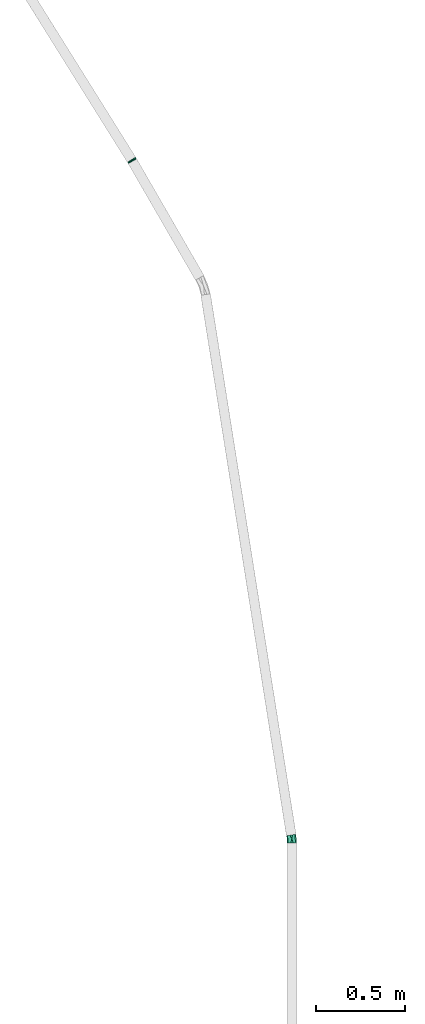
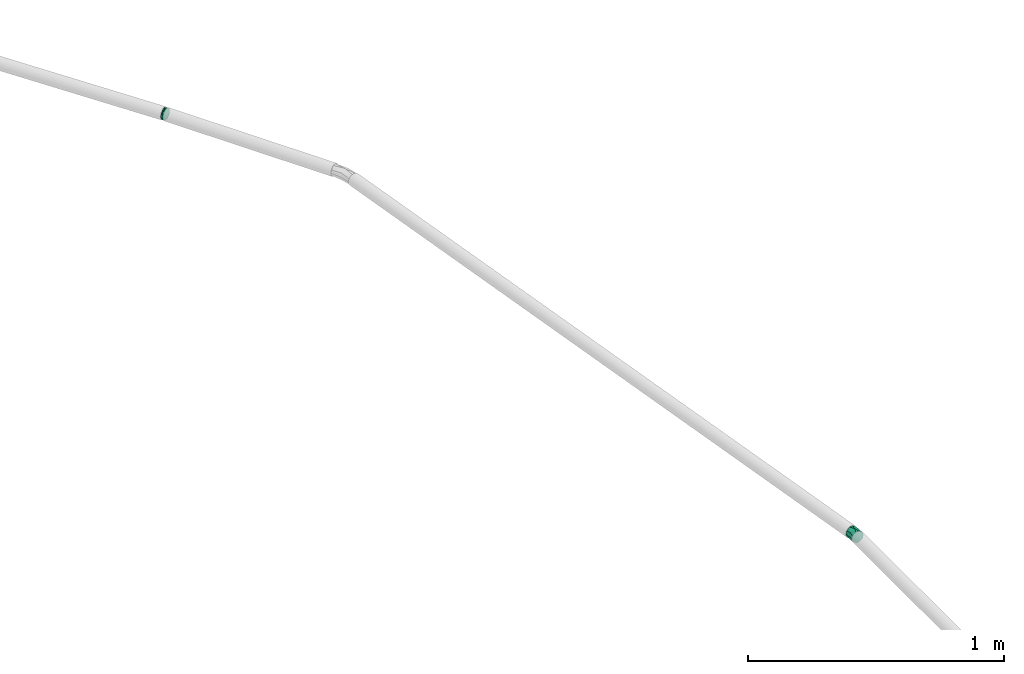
# One storey, part 151 of 153: 2 flow fittings.
"""IFC2X3 building model written with IfcOpenShell, lengths in metres."""

from ifc_helpers import new_model, entity, si_unit, converted_unit, derived_unit, direction, frame, origin, place, context, subcontext, project, spatial, faceted_brep, source, transform, mapped, type_object, type_shapes, element, save


model = new_model("IFC2X3")

# Units and contexts
model_context = context("Model", 3, precision=1e-05, world=origin(), true_north=direction((6.12303176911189e-17, 1.0)))
body_context = subcontext(model_context, "Body", "Model", "MODEL_VIEW")
ifc_project = project(units=[si_unit("LENGTHUNIT", "METRE"), si_unit("AREAUNIT", "SQUARE_METRE"), si_unit("VOLUMEUNIT", "CUBIC_METRE"), converted_unit("PLANEANGLEUNIT", "DEGREE", entity("IfcRatioMeasure", 0.0174532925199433), si_unit("PLANEANGLEUNIT", "RADIAN"), dimensions=[0, 0, 0, 0, 0, 0, 0]), si_unit("MASSUNIT", "GRAM", prefix="KILO"), derived_unit("MASSDENSITYUNIT", [(si_unit("MASSUNIT", "GRAM", prefix="KILO"), 1), (si_unit("LENGTHUNIT", "METRE"), -3)]), si_unit("TIMEUNIT", "SECOND"), si_unit("FREQUENCYUNIT", "HERTZ"), si_unit("THERMODYNAMICTEMPERATUREUNIT", "DEGREE_CELSIUS"), derived_unit("THERMALTRANSMITTANCEUNIT", [(si_unit("MASSUNIT", "GRAM", prefix="KILO"), 1), (si_unit("THERMODYNAMICTEMPERATUREUNIT", "KELVIN"), -1), (si_unit("TIMEUNIT", "SECOND"), -3)]), derived_unit("VOLUMETRICFLOWRATEUNIT", [(si_unit("LENGTHUNIT", "METRE"), 3), (si_unit("TIMEUNIT", "SECOND"), -1)]), si_unit("ELECTRICCURRENTUNIT", "AMPERE"), si_unit("ELECTRICVOLTAGEUNIT", "VOLT"), si_unit("POWERUNIT", "WATT"), si_unit("FORCEUNIT", "NEWTON"), si_unit("ILLUMINANCEUNIT", "LUX"), si_unit("LUMINOUSFLUXUNIT", "LUMEN"), si_unit("LUMINOUSINTENSITYUNIT", "CANDELA"), derived_unit("USERDEFINED", [(si_unit("MASSUNIT", "GRAM", prefix="KILO"), -1), (si_unit("LENGTHUNIT", "METRE"), -2), (si_unit("TIMEUNIT", "SECOND"), 3), (si_unit("LUMINOUSFLUXUNIT", "LUMEN"), 1)]), derived_unit("LINEARVELOCITYUNIT", [(si_unit("LENGTHUNIT", "METRE"), 1), (si_unit("TIMEUNIT", "SECOND"), -1)]), si_unit("PRESSUREUNIT", "PASCAL"), derived_unit("USERDEFINED", [(si_unit("LENGTHUNIT", "METRE"), -2), (si_unit("MASSUNIT", "GRAM", prefix="KILO"), 1), (si_unit("TIMEUNIT", "SECOND"), -2)])], contexts=[model_context])

# Site, building, storey
site_placement = place(None, origin())
site = spatial("IfcSite", under=ifc_project, at=site_placement, Name="Default", CompositionType="ELEMENT")
building_placement = place(site_placement, origin())
building = spatial("IfcBuilding", under=site, at=building_placement, CompositionType="ELEMENT")
storey_placement = place(building_placement, frame((0.0, 0.0, -4.62)))
storey = spatial("IfcBuildingStorey", under=building, at=storey_placement, Name="S02", CompositionType="ELEMENT", Elevation=-4.62)

# Flow fittings
cable_carrier_fitting_type_1 = type_object("IfcCableCarrierFittingType", Name="E_E6120_Lightning Conductor_Bend_MEPcontent", PredefinedType="NOTDEFINED")
shared_shape_1 = source(origin(), body_context, "Body", "Brep", [
    faceted_brep([(-0.00569890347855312, -0.0229496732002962, 0.0132499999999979), (-0.00569890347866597, -0.0189269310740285, 0.016336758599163), (-0.00569890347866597, -0.0149041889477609, 0.0194235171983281), (-0.00569890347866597, -0.0108814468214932, 0.0225102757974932), (-0.00569890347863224, -0.0068587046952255, 0.0255970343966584), (-0.00569890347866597, 0.0, 0.0255970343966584), (-0.00569890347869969, 0.00685870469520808, 0.0255970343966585), (-0.00569890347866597, 0.0108814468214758, 0.0225102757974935), (-0.00569890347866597, 0.0149041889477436, 0.0194235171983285), (-0.00569890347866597, 0.0189269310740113, 0.0163367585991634), (-0.00569890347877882, 0.022949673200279, 0.0132499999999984), (-0.00569890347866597, 0.0240062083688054, 0.00930695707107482), (-0.00569890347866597, 0.0250627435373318, 0.00536391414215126), (-0.00569890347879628, 0.0264999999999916, 0.0), (-0.00569890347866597, 0.0247248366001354, -0.00662500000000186), (-0.00569890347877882, 0.0229496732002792, -0.0132500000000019), (-0.00569890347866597, 0.0189269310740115, -0.0163367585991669), (-0.00569890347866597, 0.0149041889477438, -0.019423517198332), (-0.00569890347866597, 0.0108814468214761, -0.0225102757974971), (-0.00569890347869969, 0.0068587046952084, -0.0255970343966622), (-0.00569890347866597, 0.0, -0.0255970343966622), (-0.00569890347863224, -0.00685870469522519, -0.0255970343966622), (-0.00569890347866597, -0.0108814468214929, -0.0225102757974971), (-0.00569890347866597, -0.0149041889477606, -0.0194235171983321), (-0.00569890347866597, -0.0189269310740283, -0.016336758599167), (-0.00569890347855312, -0.022949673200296, -0.0132500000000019), (-0.00569890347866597, -0.0240062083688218, -0.00930695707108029), (-0.00569890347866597, -0.0250627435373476, -0.00536391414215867), (-0.00569890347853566, -0.0265000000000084, 0.0), (-0.00569890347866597, -0.0247248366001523, 0.00662499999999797), (-0.00469890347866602, -0.0240062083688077, 0.00930695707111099), (-0.00469890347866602, -0.0229496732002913, 0.0132499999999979), (-0.00469890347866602, -0.0265000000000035, 0.0), (-0.00469890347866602, -0.0250627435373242, 0.00536391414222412), (-0.00469890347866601, 0.0229496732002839, 0.0132499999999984), (-0.00469890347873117, 0.0247248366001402, 0.00662499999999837), (-0.00469890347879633, 0.0264999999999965, 0.0), (-0.00469890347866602, -0.0108814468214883, 0.0225102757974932), (-0.00469890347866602, -0.00685870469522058, 0.0255970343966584), (-0.00469890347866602, -0.0189269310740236, 0.016336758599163), (-0.00469890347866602, -0.0149041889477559, 0.0194235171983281), (-0.00469890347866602, 0.00685870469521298, 0.0255970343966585), (-0.00469890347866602, 0.0108814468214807, 0.0225102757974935), (-0.00469890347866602, 0.0149041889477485, 0.0194235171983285), (-0.00469890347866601, 0.0189269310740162, 0.0163367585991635), (-0.00469890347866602, 0.0, 0.0255970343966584), (0.00469604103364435, 0.000163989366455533, 0.0255970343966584), (0.00493540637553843, -0.00669053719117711, 0.0255970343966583), (0.00593479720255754, -0.00665563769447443, 0.0255970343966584), (0.00569543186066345, 0.000198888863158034, 0.0255970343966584), (0.00545606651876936, 0.0070534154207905, 0.0255970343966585), (0.00445667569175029, 0.00701851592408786, 0.0255970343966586), (-0.00469890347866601, 0.0240062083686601, -0.00930695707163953), (-0.00469890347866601, 0.0229496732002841, -0.0132500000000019), (-0.00469890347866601, 0.025062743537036, -0.00536391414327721), (-0.00469890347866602, -0.0229496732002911, -0.0132500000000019), (-0.00469890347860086, -0.0247248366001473, -0.00662500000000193), (-0.00469890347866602, 0.010881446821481, -0.0225102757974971), (-0.00469890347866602, 0.00685870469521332, -0.0255970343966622), (-0.00469890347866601, 0.0189269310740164, -0.0163367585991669), (-0.00469890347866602, 0.0149041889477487, -0.019423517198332), (-0.00469890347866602, -0.00685870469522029, -0.0255970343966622), (-0.00469890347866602, -0.010881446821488, -0.0225102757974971), (-0.00469890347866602, -0.0149041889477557, -0.0194235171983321), (-0.00469890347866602, -0.0189269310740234, -0.016336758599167), (-0.00469890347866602, 0.0, -0.0255970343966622), (0.00469604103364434, 0.000163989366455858, -0.0255970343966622), (0.00445667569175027, 0.00701851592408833, -0.0255970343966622), (0.00545606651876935, 0.00705341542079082, -0.0255970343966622), (0.00569543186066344, 0.000198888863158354, -0.0255970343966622), (0.00593479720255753, -0.00665563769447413, -0.0255970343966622), (0.00493540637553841, -0.0066905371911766, -0.0255970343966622), (1.32593301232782e-05, -0.000759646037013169, 0.0264878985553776), (0.000260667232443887, -0.0189766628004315, 0.0184530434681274), (0.000461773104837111, -0.0264549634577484, 0.0), (0.00549697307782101, -0.0227717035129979, 0.0132499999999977), (-0.000364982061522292, 0.0209098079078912, 0.0163282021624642), (-0.00046320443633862, 0.0265369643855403, 0.0), (0.00562087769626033, -0.0263198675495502, 0.0), (0.00555892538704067, -0.024545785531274, 0.00662499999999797), (0.00389510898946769, 0.023099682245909, 0.0132499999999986), (0.00385823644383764, 0.0241555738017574, 0.00930695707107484), (0.00382136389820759, 0.0252114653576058, 0.00536391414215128), (0.00377120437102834, 0.0266478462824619, 0.0), (0.00431628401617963, 0.0110388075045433, 0.0225102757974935), (0.00417589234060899, 0.0150590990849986, 0.0194235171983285), (0.00403550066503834, 0.0190793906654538, 0.0163367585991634), (0.00535658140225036, -0.0187514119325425, 0.016336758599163), (0.00521618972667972, -0.0147311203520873, 0.0194235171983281), (0.00507579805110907, -0.0107108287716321, 0.0225102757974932), (-0.000364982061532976, 0.0209098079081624, -0.016328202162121), (0.000401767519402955, -0.0189741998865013, -0.0184530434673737), (0.00507579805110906, -0.0107108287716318, -0.0225102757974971), (0.00521618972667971, -0.0147311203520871, -0.0194235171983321), (0.00535658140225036, -0.0187514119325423, -0.016336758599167), (0.005496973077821, -0.0227717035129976, -0.0132500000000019), (1.32593338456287e-05, -0.00075964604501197, -0.0264878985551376), (0.00383315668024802, 0.0248737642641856, -0.00662500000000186), (0.00389510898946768, 0.0230996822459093, -0.0132500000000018), (0.00403550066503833, 0.019079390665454, -0.0163367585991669), (0.00417589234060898, 0.0150590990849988, -0.019423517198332), (0.00431628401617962, 0.0110388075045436, -0.0225102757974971), (0.00553384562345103, -0.0238275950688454, -0.0093069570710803), (0.00557071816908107, -0.0248834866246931, -0.00536391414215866), (0.00477059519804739, 0.0266827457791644, 0.0), (0.00483254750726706, 0.024908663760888, 0.00662499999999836), (0.00489449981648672, 0.0231345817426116, 0.0132499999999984), (0.00503489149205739, 0.0191142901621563, 0.0163367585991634), (0.00517528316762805, 0.015093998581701, 0.0194235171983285), (0.00531567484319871, 0.0110737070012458, 0.0225102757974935), (0.0060751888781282, -0.0106759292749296, 0.0225102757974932), (0.00621558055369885, -0.0146962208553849, 0.0194235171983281), (0.00635597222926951, -0.0187165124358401, 0.016336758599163), (0.00649636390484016, -0.0227368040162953, 0.0132499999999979), (0.00653323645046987, -0.0237926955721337, 0.00930695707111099), (0.00657010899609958, -0.0248485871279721, 0.00536391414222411), (0.00662026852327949, -0.0262849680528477, 0.0), (0.00655831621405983, -0.0245108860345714, -0.00662500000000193), (0.00649636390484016, -0.0227368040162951, -0.0132500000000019), (0.0063559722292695, -0.0187165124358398, -0.016336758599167), (0.00621558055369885, -0.0146962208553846, -0.0194235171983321), (0.00607518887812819, -0.0106759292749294, -0.0225102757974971), (0.0053156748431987, 0.0110737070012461, -0.0225102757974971), (0.00517528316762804, 0.0150939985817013, -0.019423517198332), (0.00503489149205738, 0.0191142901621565, -0.0163367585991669), (0.00489449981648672, 0.0231345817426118, -0.0132500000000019), (0.00485762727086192, 0.0241904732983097, -0.00930695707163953), (0.00482075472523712, 0.0252463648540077, -0.00536391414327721)], [[[0, 1, 2, 3, 4, 5, 6, 7, 8, 9, 10, 11, 12, 13, 14, 15, 16, 17, 18, 19, 20, 21, 22, 23, 24, 25, 26, 27, 28, 29]], [[30, 31, 0, 29, 28, 32, 33]], [[11, 10, 34, 35, 36, 13, 12]], [[37, 38, 4, 3, 2, 1, 0, 31, 39, 40]], [[9, 8, 7, 6, 41, 42, 43, 44, 34, 10]], [[5, 4, 38, 45, 41, 6]], [[46, 47, 48, 49, 50, 51]], [[52, 53, 15, 14, 13, 36, 54]], [[26, 25, 55, 56, 32, 28, 27]], [[57, 58, 19, 18, 17, 16, 15, 53, 59, 60]], [[24, 23, 22, 21, 61, 62, 63, 64, 55, 25]], [[20, 19, 58, 65, 61, 21]], [[66, 67, 68, 69, 70, 71]], [[72, 41, 45, 38]], [[73, 31, 74]], [[75, 73, 74]], [[73, 38, 37, 40, 39, 31]], [[34, 76, 77]], [[77, 36, 35, 34]], [[41, 72, 76]], [[76, 34, 44, 43, 42, 41]], [[74, 31, 30, 33, 32]], [[74, 78, 79, 75]], [[72, 73, 47]], [[38, 73, 72]], [[77, 80, 81, 82, 83]], [[72, 47, 46, 51]], [[76, 51, 84, 85, 86, 80]], [[76, 80, 77]], [[51, 76, 72]], [[73, 75, 87, 88, 89, 47]], [[90, 58, 57, 60, 59, 53]], [[91, 71, 92, 93, 94, 95]], [[58, 90, 96]], [[90, 53, 77]], [[74, 32, 56, 55]], [[91, 55, 64, 63, 62, 61]], [[91, 61, 96]], [[71, 91, 96]], [[77, 53, 52, 54, 36]], [[77, 83, 97, 98]], [[90, 98, 99, 100, 101, 67]], [[96, 90, 67]], [[96, 61, 65, 58]], [[96, 67, 66, 71]], [[74, 95, 102, 103, 78]], [[55, 91, 74]], [[74, 91, 95]], [[90, 77, 98]], [[104, 105, 106, 107, 108, 109, 50, 49, 48, 110, 111, 112, 113, 114, 115, 116, 117, 118, 119, 120, 121, 70, 69, 68, 122, 123, 124, 125, 126, 127]], [[114, 113, 75, 79, 78, 116, 115]], [[81, 80, 106, 105, 104, 83, 82]], [[110, 48, 47, 89, 88, 87, 75, 113, 112, 111]], [[86, 85, 84, 51, 50, 109, 108, 107, 106, 80]], [[126, 125, 98, 97, 83, 104, 127]], [[102, 95, 118, 117, 116, 78, 103]], [[122, 68, 67, 101, 100, 99, 98, 125, 124, 123]], [[94, 93, 92, 71, 70, 121, 120, 119, 118, 95]]]),
])
type_shapes(cable_carrier_fitting_type_1, [shared_shape_1])
flow_fitting_1_placement = place(building_placement, frame((38.9766605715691, -179.234180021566, -4.7921), z_axis=(0.0, 0.0, 1.0), x_axis=(-0.5, 0.866025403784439, 0.0)))
element("IfcFlowFitting", 1, at=flow_fitting_1_placement, inside=storey, type_object=cable_carrier_fitting_type_1, Name="E_Lightning Conductor_Bend_MEPcontent:E_E6120_Lightning Conductor_Bend_MEPcontent", ObjectType="E_Lightning Conductor_Bend_MEPcontent:E_E6120_Lightning Conductor_Bend_MEPcontent", context=body_context, shape_type="MappedRepresentation", body=[
    mapped(shared_shape_1, transform((0.0, 0.0, 0.0), scale=1.0)),
])
cable_carrier_fitting_type_2 = type_object("IfcCableCarrierFittingType", Name="E_E6120_Lightning Conductor_Bend_MEPcontent", PredefinedType="NOTDEFINED")
shared_shape_2 = source(origin(), body_context, "Body", "Brep", [
    faceted_brep([(-0.0221864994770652, -0.0229496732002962, 0.0132499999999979), (-0.022186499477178, -0.0189269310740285, 0.016336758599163), (-0.022186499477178, -0.0149041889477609, 0.0194235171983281), (-0.022186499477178, -0.0108814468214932, 0.0225102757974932), (-0.0221864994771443, -0.0068587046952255, 0.0255970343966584), (-0.022186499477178, 0.0, 0.0255970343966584), (-0.0221864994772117, 0.00685870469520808, 0.0255970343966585), (-0.022186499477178, 0.0108814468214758, 0.0225102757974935), (-0.022186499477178, 0.0149041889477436, 0.0194235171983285), (-0.022186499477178, 0.0189269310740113, 0.0163367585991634), (-0.0221864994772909, 0.022949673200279, 0.0132499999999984), (-0.022186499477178, 0.0240062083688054, 0.00930695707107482), (-0.022186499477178, 0.0250627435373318, 0.00536391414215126), (-0.0221864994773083, 0.0264999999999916, 0.0), (-0.022186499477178, 0.0247248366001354, -0.00662500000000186), (-0.0221864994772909, 0.0229496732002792, -0.0132500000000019), (-0.022186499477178, 0.0189269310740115, -0.0163367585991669), (-0.022186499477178, 0.0149041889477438, -0.019423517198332), (-0.022186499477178, 0.0108814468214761, -0.0225102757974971), (-0.0221864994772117, 0.0068587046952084, -0.0255970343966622), (-0.022186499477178, 0.0, -0.0255970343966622), (-0.0221864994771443, -0.00685870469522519, -0.0255970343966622), (-0.022186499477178, -0.0108814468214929, -0.0225102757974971), (-0.022186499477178, -0.0149041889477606, -0.0194235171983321), (-0.022186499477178, -0.0189269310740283, -0.016336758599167), (-0.0221864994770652, -0.022949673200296, -0.0132500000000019), (-0.022186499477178, -0.0240062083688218, -0.00930695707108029), (-0.022186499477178, -0.0250627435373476, -0.00536391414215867), (-0.0221864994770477, -0.0265000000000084, 0.0), (-0.022186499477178, -0.0247248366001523, 0.00662499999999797), (-0.0211864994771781, -0.0240062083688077, 0.00930695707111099), (-0.0211864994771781, -0.0229496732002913, 0.0132499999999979), (-0.0211864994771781, -0.0265000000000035, 0.0), (-0.0211864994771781, -0.0250627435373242, 0.00536391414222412), (-0.0211864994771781, 0.0229496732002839, 0.0132499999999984), (-0.0211864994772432, 0.0247248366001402, 0.00662499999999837), (-0.0211864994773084, 0.0264999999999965, 0.0), (-0.0211864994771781, -0.0108814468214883, 0.0225102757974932), (-0.0211864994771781, -0.00685870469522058, 0.0255970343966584), (-0.0211864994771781, -0.0189269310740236, 0.016336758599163), (-0.0211864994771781, -0.0149041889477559, 0.0194235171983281), (-0.0211864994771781, 0.00685870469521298, 0.0255970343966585), (-0.0211864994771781, 0.0108814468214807, 0.0225102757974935), (-0.0211864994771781, 0.0149041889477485, 0.0194235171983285), (-0.0211864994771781, 0.0189269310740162, 0.0163367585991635), (-0.0211864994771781, 0.0, 0.0255970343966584), (0.0209256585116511, 0.00331429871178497, 0.0255970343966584), (0.0219985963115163, -0.00345996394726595, 0.0255970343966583), (0.0229862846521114, -0.00330352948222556, 0.0255970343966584), (0.0219133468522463, 0.0034707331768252, 0.0255970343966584), (0.0208404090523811, 0.010244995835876, 0.0255970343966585), (0.019852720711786, 0.0100885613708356, 0.0255970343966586), (-0.0211864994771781, 0.0240062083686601, -0.00930695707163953), (-0.0211864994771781, 0.0229496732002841, -0.0132500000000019), (-0.0211864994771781, 0.025062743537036, -0.00536391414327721), (-0.0211864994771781, -0.0229496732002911, -0.0132500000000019), (-0.0211864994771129, -0.0247248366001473, -0.00662500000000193), (-0.0211864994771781, 0.010881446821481, -0.0225102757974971), (-0.0211864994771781, 0.00685870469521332, -0.0255970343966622), (-0.0211864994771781, 0.0189269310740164, -0.0163367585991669), (-0.0211864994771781, 0.0149041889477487, -0.019423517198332), (-0.0211864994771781, -0.00685870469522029, -0.0255970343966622), (-0.0211864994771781, -0.010881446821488, -0.0225102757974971), (-0.0211864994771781, -0.0149041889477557, -0.0194235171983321), (-0.0211864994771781, -0.0189269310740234, -0.016336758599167), (-0.0211864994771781, 0.0, -0.0255970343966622), (0.0209256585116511, 0.0033142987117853, -0.0255970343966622), (0.0198527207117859, 0.0100885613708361, -0.0255970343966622), (0.0208404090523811, 0.0102449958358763, -0.0255970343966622), (0.0219133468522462, 0.00347073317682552, -0.0255970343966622), (0.0229862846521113, -0.00330352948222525, -0.0255970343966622), (0.0219985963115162, -0.00345996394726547, -0.0255970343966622), (0.0245157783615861, -0.0193528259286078, 0.0132499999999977), (0.00111036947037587, -0.0181555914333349, 0.0184530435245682), (0.00201385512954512, -0.0255884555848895, 0.0), (-2.48389783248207e-06, 3.15578253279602e-05, 0.0264878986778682), (-0.00170290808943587, 0.0216374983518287, 0.0163282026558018), (-0.00214447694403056, 0.0272481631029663, 0.0), (0.0250711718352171, -0.0228594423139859, 0.0), (0.0247934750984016, -0.0211061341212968, 0.00662499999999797), (0.0173355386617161, 0.0259814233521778, 0.0132499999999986), (0.0171702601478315, 0.0270249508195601, 0.00930695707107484), (0.0170049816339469, 0.0280684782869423, 0.00536391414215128), (0.0167801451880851, 0.0294880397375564, 0.0), (0.0192234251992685, 0.0140617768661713, 0.0225102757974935), (0.018594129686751, 0.0180349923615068, 0.0194235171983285), (0.0179648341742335, 0.0220082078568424, 0.0163367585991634), (0.0238864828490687, -0.0153796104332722, 0.016336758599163), (0.0232571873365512, -0.0114063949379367, 0.0194235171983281), (0.0226278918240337, -0.00743317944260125, 0.0225102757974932), (-0.00170290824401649, 0.0216374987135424, -0.0163282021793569), (0.00174346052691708, -0.0181057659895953, -0.0184530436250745), (0.0226278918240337, -0.00743317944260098, -0.0225102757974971), (0.0232571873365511, -0.0114063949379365, -0.0194235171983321), (0.0238864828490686, -0.015379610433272, -0.016336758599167), (0.0245157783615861, -0.0193528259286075, -0.0132500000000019), (-2.48410060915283e-06, 3.15539115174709e-05, -0.0264878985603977), (0.0170578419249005, 0.0277347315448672, -0.00662500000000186), (0.017335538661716, 0.0259814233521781, -0.0132500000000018), (0.0179648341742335, 0.0220082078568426, -0.0163367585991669), (0.018594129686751, 0.0180349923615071, -0.019423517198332), (0.0192234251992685, 0.0140617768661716, -0.0225102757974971), (0.0246810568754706, -0.0203963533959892, -0.0093069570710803), (0.0248463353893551, -0.0214398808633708, -0.00536391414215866), (0.0202111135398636, 0.0142182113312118, -0.0225102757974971), (0.0195818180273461, 0.0181914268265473, -0.019423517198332), (0.0189525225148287, 0.0221646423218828, -0.0163367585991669), (0.0183232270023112, 0.0261378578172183, -0.0132500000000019), (0.0181579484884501, 0.0271813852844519, -0.00930695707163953), (0.017992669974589, 0.0282249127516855, -0.00536391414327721), (0.0177678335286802, 0.0296444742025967, 0.0), (0.0180455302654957, 0.0278911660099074, 0.00662499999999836), (0.0183232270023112, 0.0261378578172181, 0.0132499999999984), (0.0189525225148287, 0.0221646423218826, 0.0163367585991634), (0.0195818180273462, 0.018191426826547, 0.0194235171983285), (0.0202111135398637, 0.0142182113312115, 0.0225102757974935), (0.0236155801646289, -0.00727674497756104, 0.0225102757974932), (0.0242448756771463, -0.0112499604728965, 0.0194235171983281), (0.0248741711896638, -0.015223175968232, 0.016336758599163), (0.0255034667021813, -0.0191963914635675, 0.0132499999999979), (0.0256687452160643, -0.0202399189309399, 0.00930695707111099), (0.0258340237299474, -0.0212834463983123, 0.00536391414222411), (0.0260588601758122, -0.0227030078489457, 0.0), (0.0257811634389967, -0.0209496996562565, -0.00662500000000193), (0.0255034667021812, -0.0191963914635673, -0.0132500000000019), (0.0248741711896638, -0.0152231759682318, -0.016336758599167), (0.0242448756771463, -0.0112499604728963, -0.0194235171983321), (0.0236155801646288, -0.00727674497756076, -0.0225102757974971)], [[[0, 1, 2, 3, 4, 5, 6, 7, 8, 9, 10, 11, 12, 13, 14, 15, 16, 17, 18, 19, 20, 21, 22, 23, 24, 25, 26, 27, 28, 29]], [[30, 31, 0, 29, 28, 32, 33]], [[11, 10, 34, 35, 36, 13, 12]], [[37, 38, 4, 3, 2, 1, 0, 31, 39, 40]], [[9, 8, 7, 6, 41, 42, 43, 44, 34, 10]], [[5, 4, 38, 45, 41, 6]], [[46, 47, 48, 49, 50, 51]], [[52, 53, 15, 14, 13, 36, 54]], [[26, 25, 55, 56, 32, 28, 27]], [[57, 58, 19, 18, 17, 16, 15, 53, 59, 60]], [[24, 23, 22, 21, 61, 62, 63, 64, 55, 25]], [[20, 19, 58, 65, 61, 21]], [[66, 67, 68, 69, 70, 71]], [[72, 73, 74]], [[74, 73, 31]], [[75, 41, 45, 38]], [[73, 38, 37, 40, 39, 31]], [[76, 34, 44, 43, 42, 41]], [[34, 76, 77]], [[77, 36, 35, 34]], [[41, 75, 76]], [[74, 31, 30, 33, 32]], [[74, 78, 79, 72]], [[38, 73, 75]], [[75, 73, 47]], [[77, 80, 81, 82, 83]], [[75, 47, 46, 51]], [[80, 77, 76]], [[76, 51, 84, 85, 86, 80]], [[51, 76, 75]], [[73, 72, 87, 88, 89, 47]], [[90, 58, 57, 60, 59, 53]], [[91, 71, 92, 93, 94, 95]], [[58, 90, 96]], [[53, 77, 90]], [[74, 32, 56, 55]], [[91, 55, 64, 63, 62, 61]], [[91, 61, 96]], [[71, 91, 96]], [[77, 53, 52, 54, 36]], [[77, 83, 97, 98]], [[90, 98, 99, 100, 101, 67]], [[96, 90, 67]], [[74, 91, 95]], [[96, 67, 66, 71]], [[74, 95, 102, 103, 78]], [[55, 91, 74]], [[96, 61, 65, 58]], [[90, 77, 98]], [[104, 105, 106, 107, 108, 109, 110, 111, 112, 113, 114, 115, 50, 49, 48, 116, 117, 118, 119, 120, 121, 122, 123, 124, 125, 126, 127, 70, 69, 68]], [[120, 119, 72, 79, 78, 122, 121]], [[81, 80, 112, 111, 110, 83, 82]], [[116, 48, 47, 89, 88, 87, 72, 119, 118, 117]], [[86, 85, 84, 51, 50, 115, 114, 113, 112, 80]], [[108, 107, 98, 97, 83, 110, 109]], [[102, 95, 124, 123, 122, 78, 103]], [[104, 68, 67, 101, 100, 99, 98, 107, 106, 105]], [[94, 93, 92, 71, 70, 127, 126, 125, 124, 95]]]),
])
type_shapes(cable_carrier_fitting_type_2, [shared_shape_2])
flow_fitting_2_placement = place(building_placement, frame((39.8796192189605, -183.0659026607, -4.79209999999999), z_axis=(0.0, 0.0, 1.0), x_axis=(0.0, 1.0, 0.0)))
element("IfcFlowFitting", 2, at=flow_fitting_2_placement, inside=storey, type_object=cable_carrier_fitting_type_2, Name="E_Lightning Conductor_Bend_MEPcontent:E_E6120_Lightning Conductor_Bend_MEPcontent", ObjectType="E_Lightning Conductor_Bend_MEPcontent:E_E6120_Lightning Conductor_Bend_MEPcontent", context=body_context, shape_type="MappedRepresentation", body=[
    mapped(shared_shape_2, transform((0.0, 0.0, 0.0), scale=1.0)),
])

save(model, "model.ifc")
